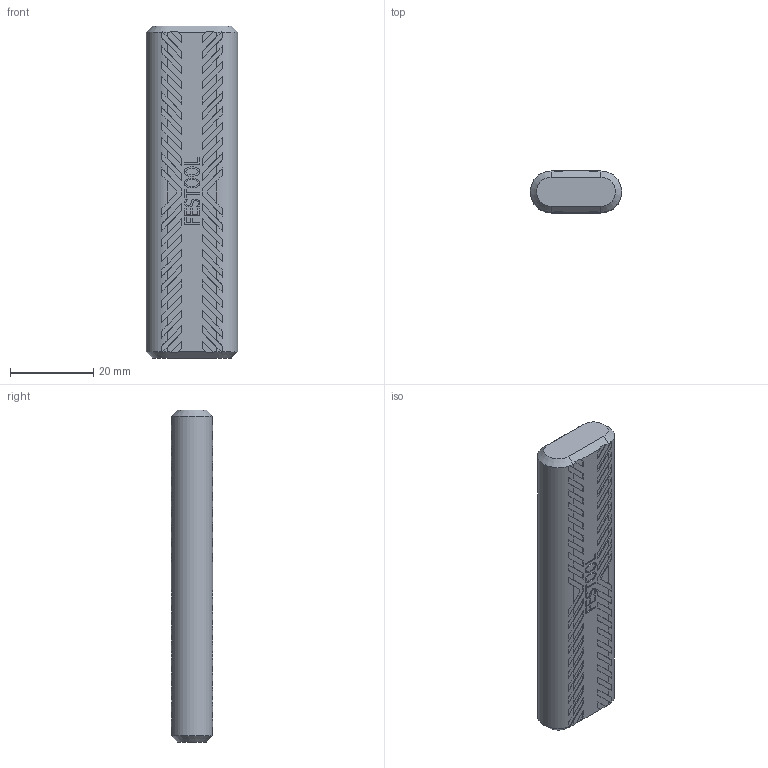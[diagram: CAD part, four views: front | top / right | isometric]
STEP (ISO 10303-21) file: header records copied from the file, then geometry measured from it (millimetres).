
FILE_DESCRIPTION(('Creo Elements/Direct Modeling STEP Export'),'2;1');
FILE_NAME('Domino_10x80.stp','2024-01-19T 8:03:50',(''),(''),'Creo Elements/Direct Modeling STEP processor for AP214 (Solid Model)','Creo Elements/Direct Modeling 20.5A 14-Oct-2022 (C) Parametric Technology GmbH','');
FILE_SCHEMA(('AUTOMOTIVE_DESIGN { 1 0 10303 214 1 1 1 1 }'));
Length unit declared in the file: millimetre
Products named in the file (1): 10x80_00479328
Bounding box: 21.96 x 10 x 80 mm (x, y, z)
Volume: 15629.6 mm3; surface area: 5017.3 mm2
Topology: 1 solids, 1 shells, 952 faces, 2761 edges, 1838 vertices
Faces by surface type: plane 938, cylinder 10, cone 4
Entity records: 30142 total; most frequent: CARTESIAN_POINT 5543, ORIENTED_EDGE 5522, DIRECTION 4517, EDGE_CURVE 2761, VECTOR 2477, LINE 2477, VERTEX_POINT 1838, AXIS2_PLACEMENT_3D 1020
